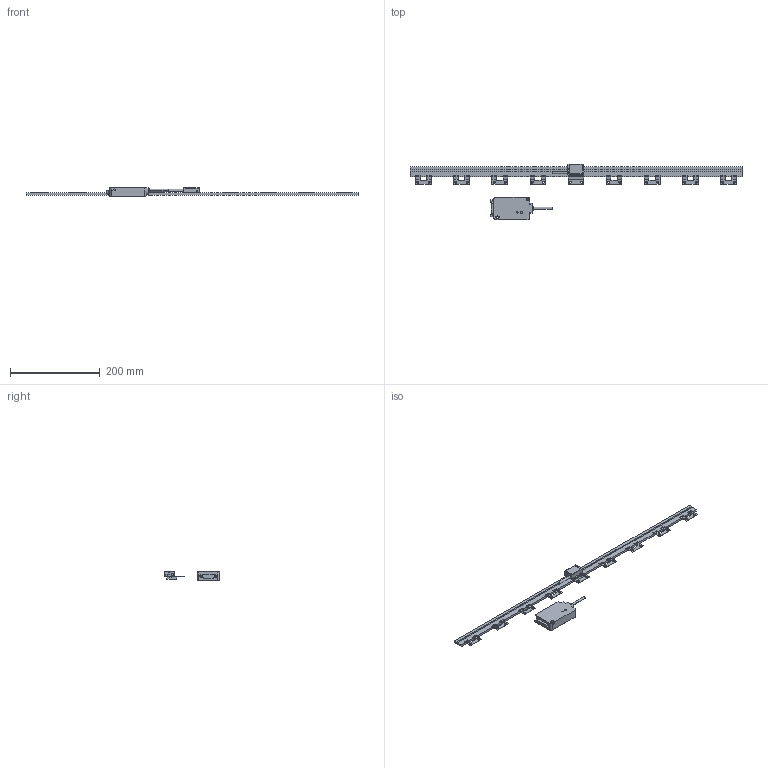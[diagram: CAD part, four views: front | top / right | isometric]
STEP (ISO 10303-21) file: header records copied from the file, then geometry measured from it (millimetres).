
FILE_DESCRIPTION(('Creo Elements/Direct Modeling STEP Export'),'2;1');
FILE_NAME('ST36-700.stp','2018-03-23T14:28:56',(''),(''),'Creo Elements/Direct Modeling STEP processor for AP214 (Solid Model)','Creo Elements/Direct Modeling 18.1B 29-Sep-2012 (C) Parametric Technology GmbH','');
FILE_SCHEMA(('AUTOMOTIVE_DESIGN { 1 0 10303 214 1 1 1 1 }'));
Length unit declared in the file: millimetre
Products named in the file (4): DetectorHead; IFbox; Scale_700; ST36-700
Assembly tree (3 placements, depth 2):
  ST36-700
    Scale_700
    IFbox
    DetectorHead
Bounding box: 740 x 123 x 19.9 mm (x, y, z)
Volume: 167959.8 mm3; surface area: 69118.3 mm2
Topology: 3 solids, 5 shells, 593 faces, 1609 edges, 1049 vertices
Faces by surface type: plane 355, cylinder 200, cone 28, torus 8, bspline 2
Entity records: 18260 total; most frequent: ORIENTED_EDGE 3218, CARTESIAN_POINT 3127, DIRECTION 2731, EDGE_CURVE 1609, VERTEX_POINT 1049, VECTOR 1003, LINE 1003, AXIS2_PLACEMENT_3D 864
